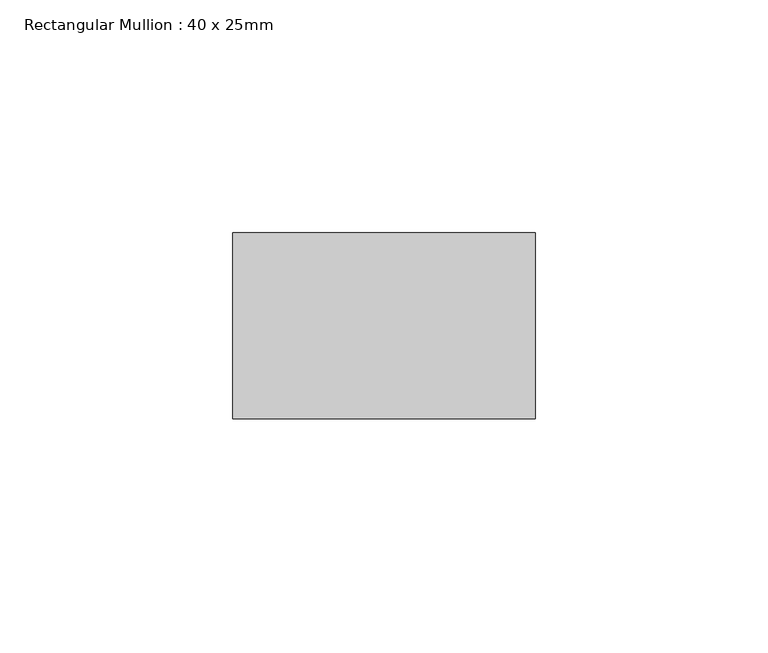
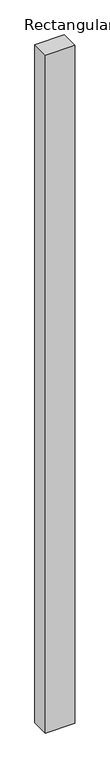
"""IFC4 building model written with IfcOpenShell, lengths in millimetres: member geometry, Rectangular Mullion : 40 x 25mm."""

import ifcopenshell
import ifcopenshell.guid

model = None  # the IFC model being written
_history = None  # IfcOwnerHistory: only IFC2X3 demands one
_inside = {}  # id of a spatial element -> (the spatial element, [elements in it])
_under = {}  # id of a project, library or spatial element -> (it, [spatial elements below it])
_declared = {}  # id of a project -> (the project, [libraries it declares])
_typed = {}  # id of a type object -> (the type object, [elements of that type])
_made_of = {}  # id of a material, layer set ... -> (it, [elements and type objects made of it])


def new_model(schema):
    """Start an empty IFC model of exactly this schema.

    Asked for "IFC4X3", IfcOpenShell would pick the latest addendum, in which some entities
    have other attributes; the version numbers below select the first issue.
    IFC2X3 requires an IfcOwnerHistory on every rooted entity: one is made here for all.
    """
    global model, _history
    if schema == "IFC4X3":
        model = ifcopenshell.file(schema_version=(4, 3, 0, 0))
    else:
        model = ifcopenshell.file(schema=schema)
    _inside.clear()
    _under.clear()
    _declared.clear()
    _typed.clear()
    _made_of.clear()
    _history = None
    if model.schema == "IFC2X3":
        org = make("IfcOrganization", Name="unknown")
        user = make(
            "IfcPersonAndOrganization",
            ThePerson=make("IfcPerson", FamilyName="unknown"),
            TheOrganization=org,
        )
        app = make(
            "IfcApplication",
            ApplicationDeveloper=org,
            Version="unknown",
            ApplicationFullName="unknown",
            ApplicationIdentifier="unknown",
        )
        _history = make(
            "IfcOwnerHistory",
            OwningUser=user,
            OwningApplication=app,
            ChangeAction="ADDED",
            CreationDate=0,
        )
    return model


def make(cls, **values):
    """One entity of the class cls with the attributes given. An attribute that is None is left unset."""
    return model.create_entity(
        cls, **{name: value for name, value in values.items() if value is not None}
    )


def rooted(cls, **values):
    """An entity with a GlobalId (a new one), such as an element, a storey or a relation."""
    return make(cls, GlobalId=ifcopenshell.guid.new(), OwnerHistory=_history, **values)


def si_unit(unit_type, name, prefix=None):
    """IfcSIUnit, for example si_unit("LENGTHUNIT", "METRE", prefix="MILLI")."""
    return make("IfcSIUnit", UnitType=unit_type, Prefix=prefix, Name=name)


def assignment(units):
    """IfcUnitAssignment: the units of a project."""
    return None if units is None else make("IfcUnitAssignment", Units=units)


def point(xyz):
    """IfcCartesianPoint."""
    return None if xyz is None else make("IfcCartesianPoint", Coordinates=xyz)


def direction(xyz):
    """IfcDirection."""
    return None if xyz is None else make("IfcDirection", DirectionRatios=xyz)


def frame(location, z_axis=None, x_axis=None):
    """IfcAxis2Placement3D, a coordinate frame: its origin and axes. An axis left out is left unset."""
    return make(
        "IfcAxis2Placement3D",
        Location=point(location),
        Axis=direction(z_axis),
        RefDirection=direction(x_axis),
    )


def origin():
    """The frame at (0, 0, 0) with its axes left unset."""
    return frame((0.0, 0.0, 0.0))


def place(relative_to, where):
    """IfcLocalPlacement: puts the frame where relative to a parent placement (None: the world)."""
    return make(
        "IfcLocalPlacement", PlacementRelTo=relative_to, RelativePlacement=where
    )


def context(
    kind, dimensions, precision=None, world=None, true_north=None, identifier=None
):
    """IfcGeometricRepresentationContext, for example the 3D "Model" context."""
    return make(
        "IfcGeometricRepresentationContext",
        ContextIdentifier=identifier,
        ContextType=kind,
        CoordinateSpaceDimension=dimensions,
        Precision=precision,
        WorldCoordinateSystem=world,
        TrueNorth=true_north,
    )


def project(units=None, contexts=None):
    """IfcProject with its units and contexts."""
    return rooted(
        "IfcProject",
        Name="project",
        RepresentationContexts=contexts,
        UnitsInContext=assignment(units),
    )


def spatial(cls, under=None, at=None, **own):
    """A site, building, storey or space (cls), placed at a placement, below another one or the project."""
    s = rooted(cls, ObjectPlacement=at, **own)
    if under is not None:
        _under.setdefault(under.id(), (under, []))[1].append(s)
    return s


def polyline(points):
    """IfcPolyline through the points."""
    return make("IfcPolyline", Points=[point(p) for p in points])


def outline(outer, holes=None, kind="AREA"):
    """IfcArbitraryClosedProfileDef: a profile drawn as a closed curve; with holes, ...WithVoids."""
    if holes is None:
        return make("IfcArbitraryClosedProfileDef", ProfileType=kind, OuterCurve=outer)
    return make(
        "IfcArbitraryProfileDefWithVoids",
        ProfileType=kind,
        OuterCurve=outer,
        InnerCurves=holes,
    )


def extrude(swept, where, along, depth):
    """IfcExtrudedAreaSolid: the profile swept, set in the frame where, extruded along a direction by depth."""
    return make(
        "IfcExtrudedAreaSolid",
        SweptArea=swept,
        Position=where,
        ExtrudedDirection=direction(along),
        Depth=depth,
    )


def shape(context_of_items, identifier, shape_type, items):
    """IfcShapeRepresentation: the items that make up one representation, for example the "Body"."""
    return make(
        "IfcShapeRepresentation",
        ContextOfItems=context_of_items,
        RepresentationIdentifier=identifier,
        RepresentationType=shape_type,
        Items=items,
    )


def source(mapping_origin, context_of_items, identifier, shape_type, items):
    """IfcRepresentationMap: a shape defined once, which mapped items show again and again."""
    return make(
        "IfcRepresentationMap",
        MappingOrigin=mapping_origin,
        MappedRepresentation=shape(context_of_items, identifier, shape_type, items),
    )


def transform(
    local_origin,
    x_axis=None,
    y_axis=None,
    z_axis=None,
    scale=None,
    scale2=None,
    scale3=None,
    uniform=True,
):
    """IfcCartesianTransformationOperator3D, or its non-uniform kind. x_axis, y_axis, z_axis: its Axis1, 2, 3."""
    if uniform:
        return make(
            "IfcCartesianTransformationOperator3D",
            Axis1=direction(x_axis),
            Axis2=direction(y_axis),
            LocalOrigin=point(local_origin),
            Scale=scale,
            Axis3=direction(z_axis),
        )
    return make(
        "IfcCartesianTransformationOperator3DnonUniform",
        Axis1=direction(x_axis),
        Axis2=direction(y_axis),
        LocalOrigin=point(local_origin),
        Scale=scale,
        Axis3=direction(z_axis),
        Scale2=scale2,
        Scale3=scale3,
    )


def mapped(mapping_source, mapping_target):
    """IfcMappedItem: shows the shape of a source again, moved by a transform."""
    return make(
        "IfcMappedItem", MappingSource=mapping_source, MappingTarget=mapping_target
    )


def made_of(thing, what):
    """Note that an element or type object is made of a material, layer set ...; save() writes the relation."""
    if what is not None:
        _made_of.setdefault(what.id(), (what, []))[1].append(thing)
    return thing


def element(
    cls,
    number,
    at=None,
    inside=None,
    cuts=None,
    type_object=None,
    material=None,
    context=None,
    identifier="Body",
    shape_type=None,
    held_by="IfcProductDefinitionShape",
    body=None,
    shapes=None,
    **own,
):
    """One element of the class cls, such as IfcWall. Its Tag is "e" and its number.

    at: its placement. inside: the storey or other place that contains it. cuts: it is an
    opening in that element (IfcRelVoidsElement). A single representation is given by context,
    identifier, shape_type and body (its items); several are given by shapes. held_by: the class
    of the entity that holds the representations. save() writes the other relations.
    """
    e = rooted(cls, Tag="e%d" % number, ObjectPlacement=at, **own)
    if body is not None:
        shapes = [shape(context, identifier, shape_type, body)]
    if shapes is not None:
        e.Representation = make(held_by, Representations=shapes)
    if inside is not None:
        _inside.setdefault(inside.id(), (inside, []))[1].append(e)
    if cuts is not None:
        rooted(
            "IfcRelVoidsElement", RelatingBuildingElement=cuts, RelatedOpeningElement=e
        )
    if type_object is not None:
        _typed.setdefault(type_object.id(), (type_object, []))[1].append(e)
    return made_of(e, material)


def aggregate(whole, parts):
    """IfcRelAggregates: a whole, such as a stair, and the parts it consists of."""
    return rooted("IfcRelAggregates", RelatingObject=whole, RelatedObjects=parts)


def save(model, path):
    """Write the relations noted so far, then the file.

    IfcRelAggregates (storeys below a building ...), IfcRelContainedInSpatialStructure (elements
    in a storey), IfcRelDefinesByType, IfcRelAssociatesMaterial and IfcRelDeclares: one each for
    every whole, place, type object, material and project.
    """
    for whole, parts in _under.values():
        aggregate(whole, parts)
    for where, things in _inside.values():
        rooted(
            "IfcRelContainedInSpatialStructure",
            RelatedElements=things,
            RelatingStructure=where,
        )
    for kind, things in _typed.values():
        rooted("IfcRelDefinesByType", RelatedObjects=things, RelatingType=kind)
    for what, things in _made_of.values():
        rooted("IfcRelAssociatesMaterial", RelatedObjects=things, RelatingMaterial=what)
    for by, libraries in _declared.values():
        rooted("IfcRelDeclares", RelatingContext=by, RelatedDefinitions=libraries)
    model.write(path)


def rectangular_mullion_40_x_25mm_2b57754a(model_context):
    return source(origin(), model_context, "Body", "SweptSolid", [
        extrude(outline(polyline([(0.0, -20.0), (0.0, -60.0), (-65.0, -60.0), (-65.0, -20.0), (0.0, -20.0)])), frame((0.0, 0.0, -1578.6), z_axis=(0.0, 0.0, 1.0), x_axis=(1.0, 0.0, 0.0)), (0.0, 0.0, 1.0), 1578.6),
    ])


if __name__ == "__main__":
    model = new_model("IFC4")
    model_context = context("Model", 3, world=origin())
    ifc_project = project(units=[si_unit("LENGTHUNIT", "METRE", prefix="MILLI")], contexts=[model_context])
    site = spatial("IfcSite", under=ifc_project)
    building = spatial("IfcBuilding", under=site)
    placement = place(None, origin())
    rectangular_mullion_40_x_25mm_shape = rectangular_mullion_40_x_25mm_2b57754a(model_context)
    element("IfcMember", 1, ObjectType="Rectangular Mullion : 40 x 25mm", at=placement, inside=building, context=model_context, shape_type="MappedRepresentation", body=[
        mapped(rectangular_mullion_40_x_25mm_shape, transform((0.0, 0.0, 0.0), x_axis=(1.0, 0.0, 0.0), y_axis=(0.0, 1.0, 0.0), z_axis=(0.0, 0.0, 1.0))),
    ])
    save(model, "model.ifc")
